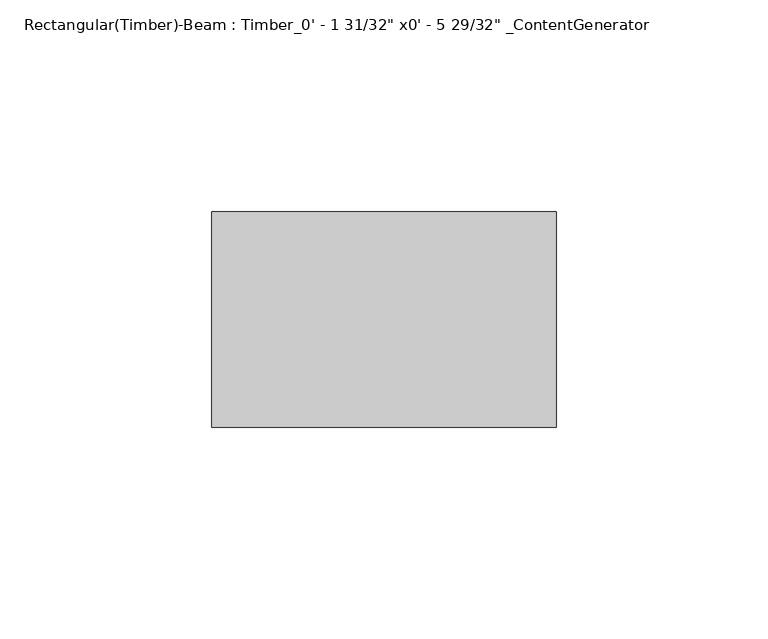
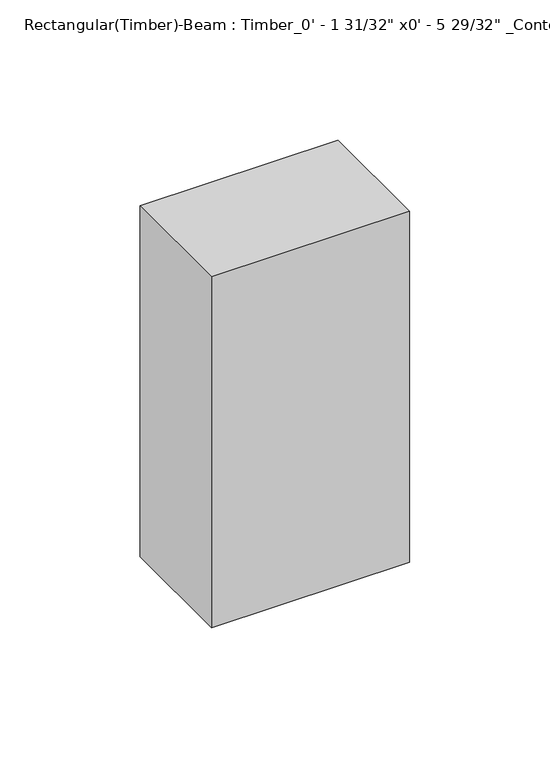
"""IFC4 building model written with IfcOpenShell, lengths in millimetres: beam geometry."""

from ifc_helpers import new_model, si_unit, frame, origin, place, context, project, spatial, polyline, outline, extrude, source, transform, mapped, element, save


def beam_5669776f(model_context):
    return source(origin(), model_context, "Body", "SweptSolid", [
        extrude(outline(polyline([(40.645, 25.4), (40.645, -25.4), (-40.645, -25.4), (-40.645, 25.4), (40.645, 25.4)])), frame((0.0, 0.0, -76.2), z_axis=(0.0, 0.0, 1.0), x_axis=(1.0, 0.0, 0.0)), (0.0, 0.0, 1.0), 152.4),
    ])


if __name__ == "__main__":
    model = new_model("IFC4")
    model_context = context("Model", 3, world=origin())
    ifc_project = project(units=[si_unit("LENGTHUNIT", "METRE", prefix="MILLI")], contexts=[model_context])
    site = spatial("IfcSite", under=ifc_project)
    building = spatial("IfcBuilding", under=site)
    placement = place(None, origin())
    beam_shape = beam_5669776f(model_context)
    element("IfcBeam", 1, ObjectType="Rectangular(Timber)-Beam : Timber_0' - 1 31/32\" x0' - 5 29/32\" _ContentGenerator", at=placement, inside=building, context=model_context, shape_type="MappedRepresentation", body=[
        mapped(beam_shape, transform((0.0, 0.0, 0.0), x_axis=(1.0, 0.0, 0.0), y_axis=(0.0, 1.0, 0.0), z_axis=(0.0, 0.0, 1.0))),
    ])
    save(model, "model.ifc")
